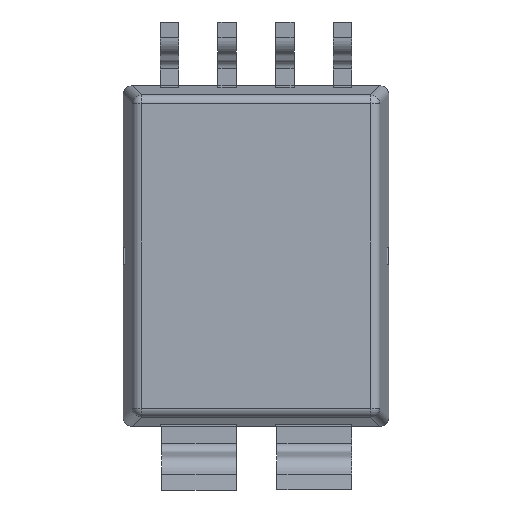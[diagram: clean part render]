
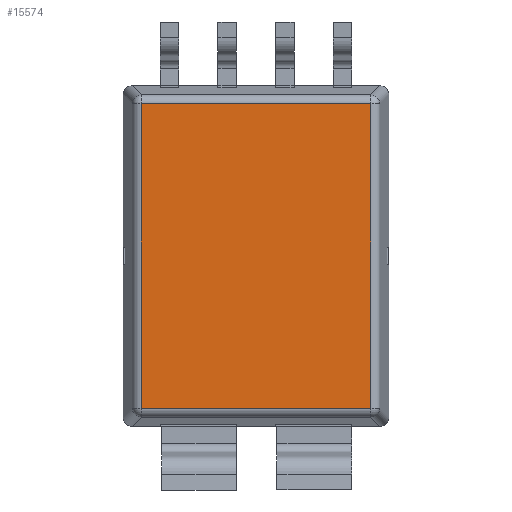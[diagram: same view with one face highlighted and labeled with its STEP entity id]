
A CAD part, top view. The second image highlights one B-rep face of the part: STEP entity #15574.
In plain terms, the highlighted planar face has unit normal (0, 0, 1).
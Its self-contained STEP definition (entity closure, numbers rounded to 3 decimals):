
#359 = DIRECTION ( 'NONE',  ( 0., 0., -1. ) ) ;
#1403 = EDGE_CURVE ( 'NONE', #11041, #10315, #18355, .T. ) ;
#1449 = ORIENTED_EDGE ( 'NONE', *, *, #1403, .T. ) ;
#1536 = VECTOR ( 'NONE', #12604, 1000. ) ;
#2504 = LINE ( 'NONE', #5224, #13299 ) ;
#4128 = CARTESIAN_POINT ( 'NONE',  ( 0., 7.103, 1.3 ) ) ;
#4697 = PLANE ( 'NONE',  #6003 ) ;
#5224 = CARTESIAN_POINT ( 'NONE',  ( 0., 0.397, 1.3 ) ) ;
#6003 = AXIS2_PLACEMENT_3D ( 'NONE', #13586, #359, #6242 ) ;
#6242 = DIRECTION ( 'NONE',  ( -1., 0., 0. ) ) ;
#6811 = ORIENTED_EDGE ( 'NONE', *, *, #10356, .T. ) ;
#7616 = CARTESIAN_POINT ( 'NONE',  ( 5.453, 7.103, 1.3 ) ) ;
#7934 = VERTEX_POINT ( 'NONE', #7616 ) ;
#8268 = EDGE_CURVE ( 'NONE', #7934, #11041, #17356, .T. ) ;
#8271 = ORIENTED_EDGE ( 'NONE', *, *, #13426, .T. ) ;
#9309 = CARTESIAN_POINT ( 'NONE',  ( 5.453, 0., 1.3 ) ) ;
#9551 = VERTEX_POINT ( 'NONE', #10126 ) ;
#9556 = DIRECTION ( 'NONE',  ( 0., -1., 0. ) ) ;
#9936 = DIRECTION ( 'NONE',  ( 1., 0., 0. ) ) ;
#10020 = DIRECTION ( 'NONE',  ( -1., 0., 0. ) ) ;
#10126 = CARTESIAN_POINT ( 'NONE',  ( 5.453, 0.397, 1.3 ) ) ;
#10315 = VERTEX_POINT ( 'NONE', #12027 ) ;
#10356 = EDGE_CURVE ( 'NONE', #9551, #7934, #14917, .T. ) ;
#11041 = VERTEX_POINT ( 'NONE', #12860 ) ;
#12027 = CARTESIAN_POINT ( 'NONE',  ( 0.397, 0.397, 1.3 ) ) ;
#12604 = DIRECTION ( 'NONE',  ( 0., 1., 0. ) ) ;
#12860 = CARTESIAN_POINT ( 'NONE',  ( 0.397, 7.103, 1.3 ) ) ;
#12903 = VECTOR ( 'NONE', #10020, 1000. ) ;
#13299 = VECTOR ( 'NONE', #9936, 1000. ) ;
#13426 = EDGE_CURVE ( 'NONE', #10315, #9551, #2504, .T. ) ;
#13586 = CARTESIAN_POINT ( 'NONE',  ( 0., 0., 1.3 ) ) ;
#14917 = LINE ( 'NONE', #9309, #1536 ) ;
#15574 = ADVANCED_FACE ( 'NONE', ( #17933 ), #4697, .F. ) ;
#16906 = CARTESIAN_POINT ( 'NONE',  ( 0.397, 0., 1.3 ) ) ;
#17356 = LINE ( 'NONE', #4128, #12903 ) ;
#17846 = VECTOR ( 'NONE', #9556, 1000. ) ;
#17933 = FACE_OUTER_BOUND ( 'NONE', #18213, .T. ) ;
#18213 = EDGE_LOOP ( 'NONE', ( #1449, #8271, #6811, #18537 ) ) ;
#18355 = LINE ( 'NONE', #16906, #17846 ) ;
#18537 = ORIENTED_EDGE ( 'NONE', *, *, #8268, .T. ) ;
